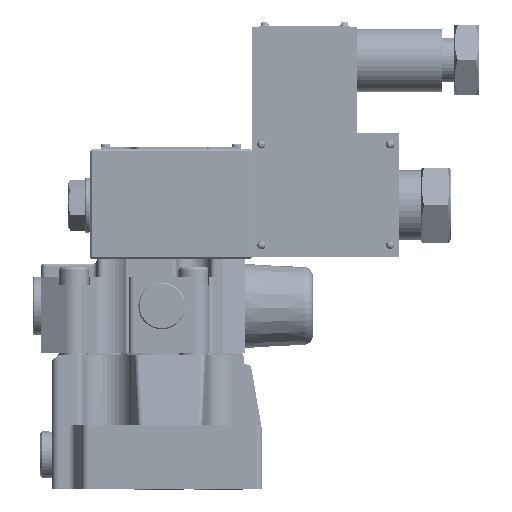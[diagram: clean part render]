
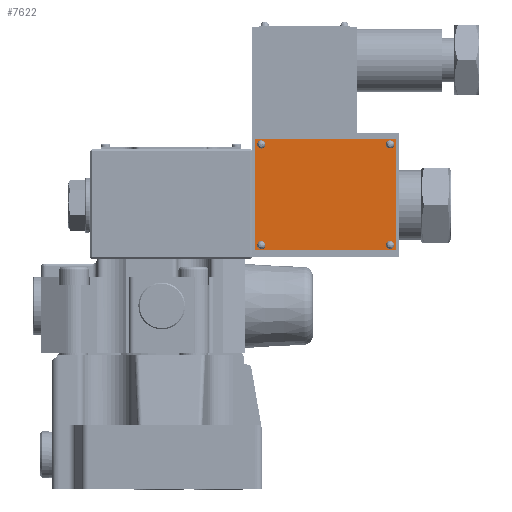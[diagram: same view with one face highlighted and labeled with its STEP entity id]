
A CAD part, front view. The second image highlights one B-rep face of the part: STEP entity #7622.
In plain terms, the highlighted planar face has unit normal (0, -1, 0).
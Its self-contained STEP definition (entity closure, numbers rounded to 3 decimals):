
#1256=FACE_OUTER_BOUND('',#10433,.T.);
#3137=LINE('',#122217,#4512);
#3141=LINE('',#122226,#4516);
#3144=LINE('',#122232,#4519);
#3147=LINE('',#122238,#4522);
#4512=VECTOR('',#28289,1.);
#4516=VECTOR('',#28295,1.);
#4519=VECTOR('',#28300,1.);
#4522=VECTOR('',#28305,1.);
#6497=PLANE('',#23499);
#7622=ADVANCED_FACE('',(#1256),#6497,.T.);
#10433=EDGE_LOOP('',(#15168,#15169,#15170,#15171));
#15168=ORIENTED_EDGE('',*,*,#20474,.T.);
#15169=ORIENTED_EDGE('',*,*,#20478,.T.);
#15170=ORIENTED_EDGE('',*,*,#20481,.T.);
#15171=ORIENTED_EDGE('',*,*,#20484,.T.);
#17875=VERTEX_POINT('',#122218);
#17876=VERTEX_POINT('',#122219);
#17879=VERTEX_POINT('',#122227);
#17881=VERTEX_POINT('',#122233);
#20474=EDGE_CURVE('',#17875,#17876,#3137,.T.);
#20478=EDGE_CURVE('',#17876,#17879,#3141,.T.);
#20481=EDGE_CURVE('',#17879,#17881,#3144,.T.);
#20484=EDGE_CURVE('',#17881,#17875,#3147,.T.);
#23499=AXIS2_PLACEMENT_3D('',#122242,#28311,#28312);
#28289=DIRECTION('',(-1.,0.,0.));
#28295=DIRECTION('',(0.,0.,-1.));
#28300=DIRECTION('',(1.,0.,0.));
#28305=DIRECTION('',(0.,0.,1.));
#28311=DIRECTION('',(0.,-1.,0.));
#28312=DIRECTION('',(1.,0.,0.));
#122217=CARTESIAN_POINT('',(-594.76,-80.732,181.25));
#122218=CARTESIAN_POINT('',(-594.76,-80.732,181.25));
#122219=CARTESIAN_POINT('',(-654.76,-80.732,181.25));
#122226=CARTESIAN_POINT('',(-654.76,-80.732,181.25));
#122227=CARTESIAN_POINT('',(-654.76,-80.732,133.75));
#122232=CARTESIAN_POINT('',(-654.76,-80.732,133.75));
#122233=CARTESIAN_POINT('',(-594.76,-80.732,133.75));
#122238=CARTESIAN_POINT('',(-594.76,-80.732,133.75));
#122242=CARTESIAN_POINT('',(-656.26,-80.732,131.));
